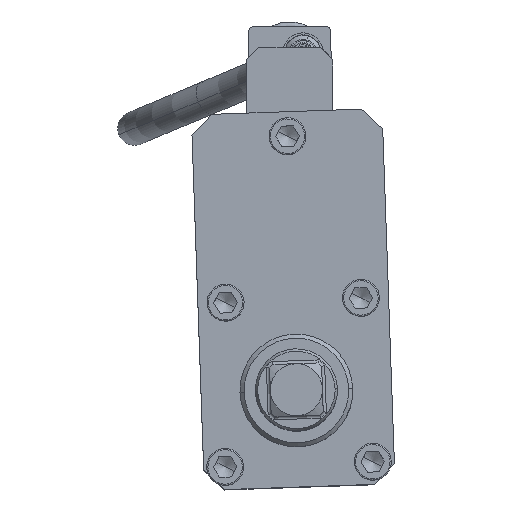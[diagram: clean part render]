
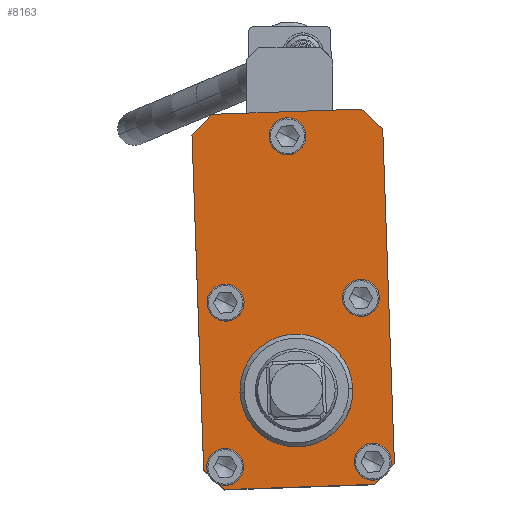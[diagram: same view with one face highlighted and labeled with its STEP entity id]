
A CAD part, top view. The second image highlights one B-rep face of the part: STEP entity #8163.
In plain terms, the highlighted planar face has unit normal (0, 0, 1).
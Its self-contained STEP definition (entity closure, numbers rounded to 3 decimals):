
#7792=AXIS2_PLACEMENT_3D('Circle Axis2P3D',#7790,#7791,$) ;
#7811=AXIS2_PLACEMENT_3D('Circle Axis2P3D',#7809,#7810,$) ;
#8020=AXIS2_PLACEMENT_3D('Circle Axis2P3D',#8018,#8019,$) ;
#8051=AXIS2_PLACEMENT_3D('Circle Axis2P3D',#8049,#8050,$) ;
#8071=AXIS2_PLACEMENT_3D('Plane Axis2P3D',#8068,#8069,#8070) ;
#8093=AXIS2_PLACEMENT_3D('Circle Axis2P3D',#8091,#8092,$) ;
#8102=AXIS2_PLACEMENT_3D('Circle Axis2P3D',#8100,#8101,$) ;
#8111=AXIS2_PLACEMENT_3D('Circle Axis2P3D',#8109,#8110,$) ;
#8120=AXIS2_PLACEMENT_3D('Circle Axis2P3D',#8118,#8119,$) ;
#8129=AXIS2_PLACEMENT_3D('Circle Axis2P3D',#8127,#8128,$) ;
#8138=AXIS2_PLACEMENT_3D('Circle Axis2P3D',#8136,#8137,$) ;
#8147=AXIS2_PLACEMENT_3D('Circle Axis2P3D',#8145,#8146,$) ;
#8156=AXIS2_PLACEMENT_3D('Circle Axis2P3D',#8154,#8155,$) ;
#7787=CARTESIAN_POINT('Vertex',(30.779,-93.413,678.6)) ;
#7790=CARTESIAN_POINT('Axis2P3D Location',(3.296,-94.372,678.6)) ;
#7794=CARTESIAN_POINT('Vertex',(-24.188,-95.332,678.6)) ;
#7809=CARTESIAN_POINT('Axis2P3D Location',(3.296,-94.372,678.6)) ;
#7830=CARTESIAN_POINT('Vertex',(-31.542,-142.618,678.6)) ;
#7833=CARTESIAN_POINT('Line Origine',(-36.713,-137.795,678.6)) ;
#7837=CARTESIAN_POINT('Vertex',(-41.885,-132.973,678.6)) ;
#7861=CARTESIAN_POINT('Vertex',(41.414,-140.07,678.6)) ;
#7864=CARTESIAN_POINT('Line Origine',(4.936,-141.344,678.6)) ;
#7885=CARTESIAN_POINT('Vertex',(51.059,-129.727,678.6)) ;
#7888=CARTESIAN_POINT('Line Origine',(46.236,-134.899,678.6)) ;
#7909=CARTESIAN_POINT('Vertex',(45.37,33.174,678.6)) ;
#7912=CARTESIAN_POINT('Line Origine',(48.214,-48.277,678.6)) ;
#7933=CARTESIAN_POINT('Vertex',(35.027,42.819,678.6)) ;
#7936=CARTESIAN_POINT('Line Origine',(40.198,37.996,678.6)) ;
#7953=CARTESIAN_POINT('Line Origine',(-1.451,41.545,678.6)) ;
#7957=CARTESIAN_POINT('Vertex',(-37.929,40.271,678.6)) ;
#7981=CARTESIAN_POINT('Vertex',(-47.573,29.928,678.6)) ;
#7984=CARTESIAN_POINT('Line Origine',(-42.751,35.099,678.6)) ;
#8001=CARTESIAN_POINT('Line Origine',(-44.729,-51.522,678.6)) ;
#8018=CARTESIAN_POINT('Axis2P3D Location',(-31.426,-131.607,678.6)) ;
#8022=CARTESIAN_POINT('Vertex',(-26.463,-134.097,678.6)) ;
#8024=CARTESIAN_POINT('Vertex',(-36.389,-129.116,678.6)) ;
#8049=CARTESIAN_POINT('Axis2P3D Location',(-31.426,-131.607,678.6)) ;
#8068=CARTESIAN_POINT('Axis2P3D Location',(3.296,-94.372,678.6)) ;
#8091=CARTESIAN_POINT('Axis2P3D Location',(-31.22,-51.551,678.6)) ;
#8095=CARTESIAN_POINT('Vertex',(-36.183,-49.06,678.6)) ;
#8097=CARTESIAN_POINT('Vertex',(-26.257,-54.042,678.6)) ;
#8100=CARTESIAN_POINT('Axis2P3D Location',(-31.22,-51.551,678.6)) ;
#8109=CARTESIAN_POINT('Axis2P3D Location',(34.74,-49.248,678.6)) ;
#8113=CARTESIAN_POINT('Vertex',(29.777,-46.757,678.6)) ;
#8115=CARTESIAN_POINT('Vertex',(39.703,-51.738,678.6)) ;
#8118=CARTESIAN_POINT('Axis2P3D Location',(34.74,-49.248,678.6)) ;
#8127=CARTESIAN_POINT('Axis2P3D Location',(40.53,-129.094,678.6)) ;
#8131=CARTESIAN_POINT('Vertex',(35.567,-126.604,678.6)) ;
#8133=CARTESIAN_POINT('Vertex',(45.493,-131.585,678.6)) ;
#8136=CARTESIAN_POINT('Axis2P3D Location',(40.53,-129.094,678.6)) ;
#8145=CARTESIAN_POINT('Axis2P3D Location',(-1.032,29.552,678.6)) ;
#8149=CARTESIAN_POINT('Vertex',(-5.995,32.043,678.6)) ;
#8151=CARTESIAN_POINT('Vertex',(3.931,27.061,678.6)) ;
#8154=CARTESIAN_POINT('Axis2P3D Location',(-1.032,29.552,678.6)) ;
#7791=DIRECTION('Axis2P3D Direction',(0.,0.,1.)) ;
#7810=DIRECTION('Axis2P3D Direction',(0.,0.,1.)) ;
#7834=DIRECTION('Vector Direction',(0.731,-0.682,0.)) ;
#7865=DIRECTION('Vector Direction',(-0.999,-0.035,0.)) ;
#7889=DIRECTION('Vector Direction',(-0.682,-0.731,0.)) ;
#7913=DIRECTION('Vector Direction',(0.035,-0.999,0.)) ;
#7937=DIRECTION('Vector Direction',(-0.731,0.682,0.)) ;
#7954=DIRECTION('Vector Direction',(0.999,0.035,0.)) ;
#7985=DIRECTION('Vector Direction',(0.682,0.731,0.)) ;
#8002=DIRECTION('Vector Direction',(-0.035,0.999,0.)) ;
#8019=DIRECTION('Axis2P3D Direction',(0.,0.,1.)) ;
#8050=DIRECTION('Axis2P3D Direction',(0.,0.,1.)) ;
#8069=DIRECTION('Axis2P3D Direction',(-0.,0.,-1.)) ;
#8070=DIRECTION('Axis2P3D XDirection',(-0.999,-0.035,0.)) ;
#8092=DIRECTION('Axis2P3D Direction',(-0.,0.,-1.)) ;
#8101=DIRECTION('Axis2P3D Direction',(-0.,0.,-1.)) ;
#8110=DIRECTION('Axis2P3D Direction',(-0.,0.,-1.)) ;
#8119=DIRECTION('Axis2P3D Direction',(-0.,0.,-1.)) ;
#8128=DIRECTION('Axis2P3D Direction',(-0.,0.,-1.)) ;
#8137=DIRECTION('Axis2P3D Direction',(-0.,0.,-1.)) ;
#8146=DIRECTION('Axis2P3D Direction',(-0.,0.,-1.)) ;
#8155=DIRECTION('Axis2P3D Direction',(-0.,0.,-1.)) ;
#7835=VECTOR('Line Direction',#7834,1.) ;
#7866=VECTOR('Line Direction',#7865,1.) ;
#7890=VECTOR('Line Direction',#7889,1.) ;
#7914=VECTOR('Line Direction',#7913,1.) ;
#7938=VECTOR('Line Direction',#7937,1.) ;
#7955=VECTOR('Line Direction',#7954,1.) ;
#7986=VECTOR('Line Direction',#7985,1.) ;
#8003=VECTOR('Line Direction',#8002,1.) ;
#8074=ORIENTED_EDGE('',*,*,#7839,.F.) ;
#8075=ORIENTED_EDGE('',*,*,#7868,.F.) ;
#8076=ORIENTED_EDGE('',*,*,#7892,.F.) ;
#8077=ORIENTED_EDGE('',*,*,#7916,.F.) ;
#8078=ORIENTED_EDGE('',*,*,#7940,.F.) ;
#8079=ORIENTED_EDGE('',*,*,#7959,.F.) ;
#8080=ORIENTED_EDGE('',*,*,#7988,.F.) ;
#8081=ORIENTED_EDGE('',*,*,#8005,.F.) ;
#8084=ORIENTED_EDGE('',*,*,#8026,.T.) ;
#8085=ORIENTED_EDGE('',*,*,#8053,.T.) ;
#8088=ORIENTED_EDGE('',*,*,#7796,.F.) ;
#8089=ORIENTED_EDGE('',*,*,#7813,.F.) ;
#8106=ORIENTED_EDGE('',*,*,#8099,.T.) ;
#8107=ORIENTED_EDGE('',*,*,#8104,.T.) ;
#8124=ORIENTED_EDGE('',*,*,#8117,.T.) ;
#8125=ORIENTED_EDGE('',*,*,#8122,.T.) ;
#8142=ORIENTED_EDGE('',*,*,#8135,.T.) ;
#8143=ORIENTED_EDGE('',*,*,#8140,.T.) ;
#8160=ORIENTED_EDGE('',*,*,#8153,.T.) ;
#8161=ORIENTED_EDGE('',*,*,#8158,.T.) ;
#8086=FACE_BOUND('',#8083,.T.) ;
#8090=FACE_BOUND('',#8087,.T.) ;
#8108=FACE_BOUND('',#8105,.T.) ;
#8126=FACE_BOUND('',#8123,.T.) ;
#8144=FACE_BOUND('',#8141,.T.) ;
#8162=FACE_BOUND('',#8159,.T.) ;
#8163=ADVANCED_FACE('AO3425.1\\AO3460_Gehaeuse.1\\Hauptk\X2\00F6\X0\rper',(#8082,#8086,#8090,#8108,#8126,#8144,#8162),#8072,.F.) ;
#7793=CIRCLE('generated circle',#7792,27.5) ;
#7812=CIRCLE('generated circle',#7811,27.5) ;
#8021=CIRCLE('generated circle',#8020,5.553) ;
#8052=CIRCLE('generated circle',#8051,5.553) ;
#8094=CIRCLE('generated circle',#8093,5.553) ;
#8103=CIRCLE('generated circle',#8102,5.553) ;
#8112=CIRCLE('generated circle',#8111,5.553) ;
#8121=CIRCLE('generated circle',#8120,5.553) ;
#8130=CIRCLE('generated circle',#8129,5.553) ;
#8139=CIRCLE('generated circle',#8138,5.553) ;
#8148=CIRCLE('generated circle',#8147,5.553) ;
#8157=CIRCLE('generated circle',#8156,5.553) ;
#7796=EDGE_CURVE('',#7788,#7795,#7793,.T.) ;
#7813=EDGE_CURVE('',#7795,#7788,#7812,.T.) ;
#7839=EDGE_CURVE('',#7831,#7838,#7836,.F.) ;
#7868=EDGE_CURVE('',#7862,#7831,#7867,.T.) ;
#7892=EDGE_CURVE('',#7886,#7862,#7891,.T.) ;
#7916=EDGE_CURVE('',#7910,#7886,#7915,.T.) ;
#7940=EDGE_CURVE('',#7934,#7910,#7939,.F.) ;
#7959=EDGE_CURVE('',#7958,#7934,#7956,.T.) ;
#7988=EDGE_CURVE('',#7982,#7958,#7987,.T.) ;
#8005=EDGE_CURVE('',#7838,#7982,#8004,.T.) ;
#8026=EDGE_CURVE('',#8023,#8025,#8021,.F.) ;
#8053=EDGE_CURVE('',#8025,#8023,#8052,.F.) ;
#8099=EDGE_CURVE('',#8096,#8098,#8094,.T.) ;
#8104=EDGE_CURVE('',#8098,#8096,#8103,.T.) ;
#8117=EDGE_CURVE('',#8114,#8116,#8112,.T.) ;
#8122=EDGE_CURVE('',#8116,#8114,#8121,.T.) ;
#8135=EDGE_CURVE('',#8132,#8134,#8130,.T.) ;
#8140=EDGE_CURVE('',#8134,#8132,#8139,.T.) ;
#8153=EDGE_CURVE('',#8150,#8152,#8148,.T.) ;
#8158=EDGE_CURVE('',#8152,#8150,#8157,.T.) ;
#8073=EDGE_LOOP('',(#8074,#8075,#8076,#8077,#8078,#8079,#8080,#8081)) ;
#8083=EDGE_LOOP('',(#8084,#8085)) ;
#8087=EDGE_LOOP('',(#8088,#8089)) ;
#8105=EDGE_LOOP('',(#8106,#8107)) ;
#8123=EDGE_LOOP('',(#8124,#8125)) ;
#8141=EDGE_LOOP('',(#8142,#8143)) ;
#8159=EDGE_LOOP('',(#8160,#8161)) ;
#8082=FACE_OUTER_BOUND('',#8073,.T.) ;
#7836=LINE('Line',#7833,#7835) ;
#7867=LINE('Line',#7864,#7866) ;
#7891=LINE('Line',#7888,#7890) ;
#7915=LINE('Line',#7912,#7914) ;
#7939=LINE('Line',#7936,#7938) ;
#7956=LINE('Line',#7953,#7955) ;
#7987=LINE('Line',#7984,#7986) ;
#8004=LINE('Line',#8001,#8003) ;
#8072=PLANE('Plane',#8071) ;
#7788=VERTEX_POINT('',#7787) ;
#7795=VERTEX_POINT('',#7794) ;
#7831=VERTEX_POINT('',#7830) ;
#7838=VERTEX_POINT('',#7837) ;
#7862=VERTEX_POINT('',#7861) ;
#7886=VERTEX_POINT('',#7885) ;
#7910=VERTEX_POINT('',#7909) ;
#7934=VERTEX_POINT('',#7933) ;
#7958=VERTEX_POINT('',#7957) ;
#7982=VERTEX_POINT('',#7981) ;
#8023=VERTEX_POINT('',#8022) ;
#8025=VERTEX_POINT('',#8024) ;
#8096=VERTEX_POINT('',#8095) ;
#8098=VERTEX_POINT('',#8097) ;
#8114=VERTEX_POINT('',#8113) ;
#8116=VERTEX_POINT('',#8115) ;
#8132=VERTEX_POINT('',#8131) ;
#8134=VERTEX_POINT('',#8133) ;
#8150=VERTEX_POINT('',#8149) ;
#8152=VERTEX_POINT('',#8151) ;
